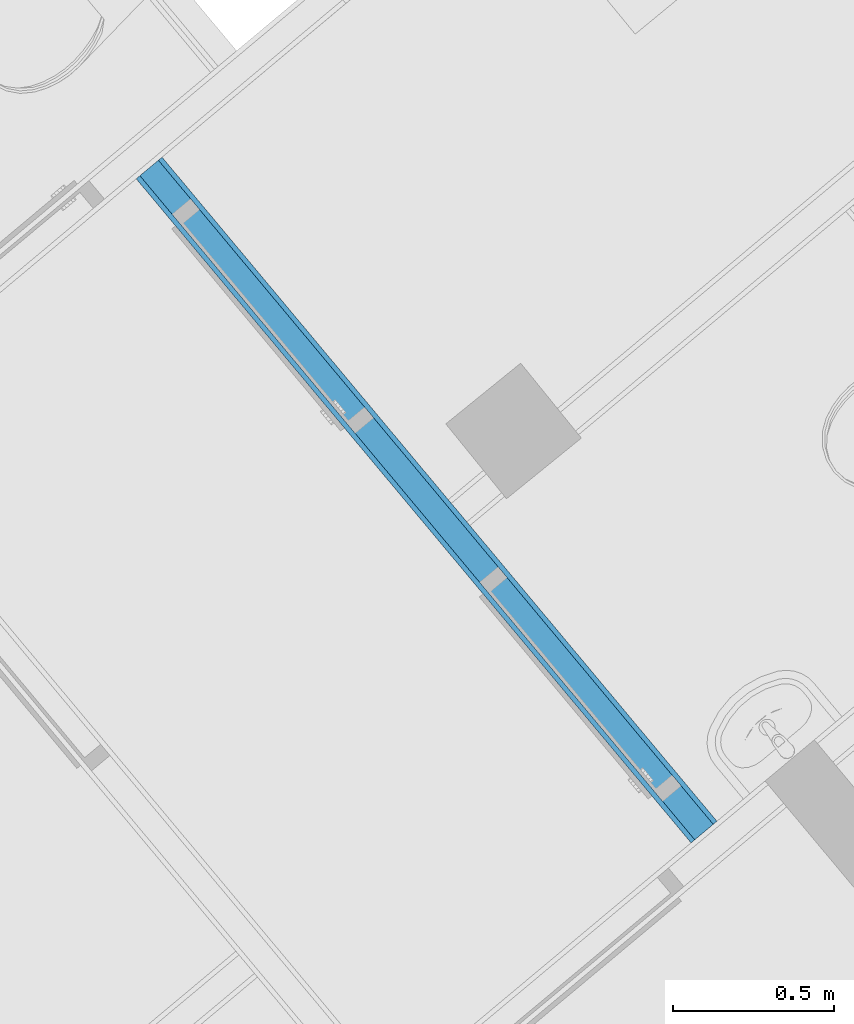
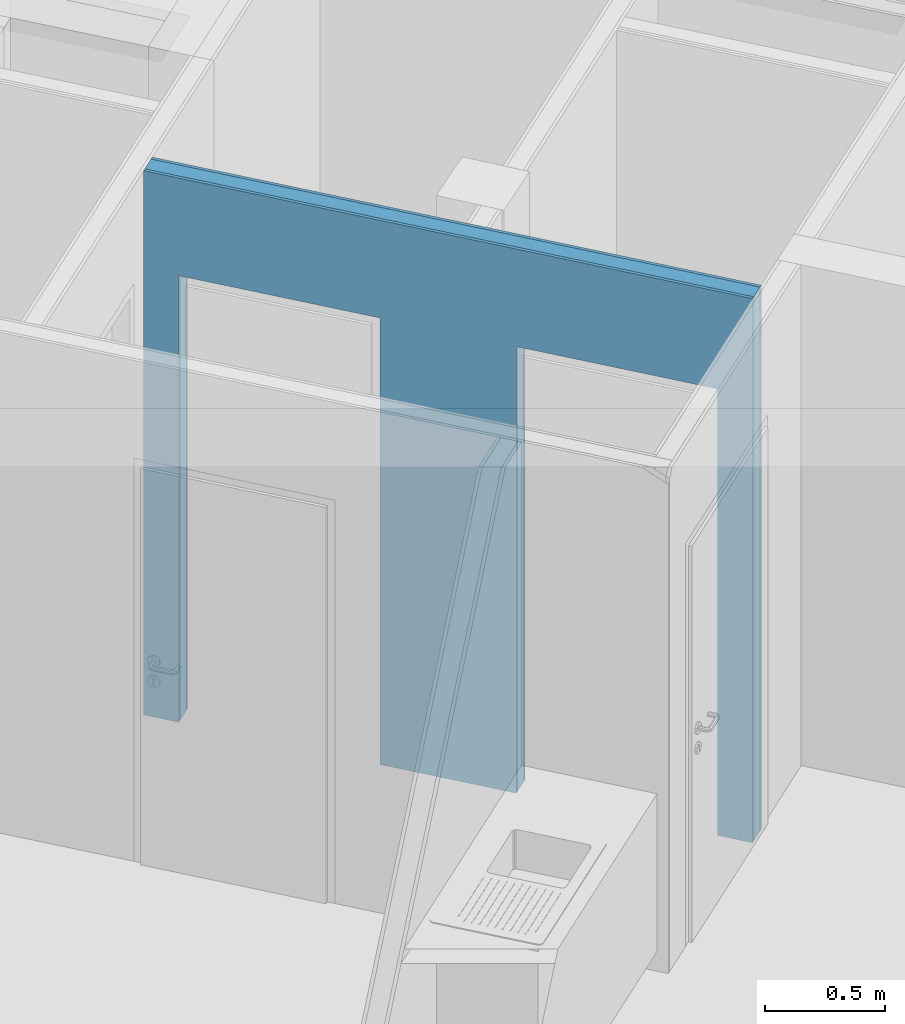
# One storey, part 13 of 75: 3 building element parts, 2 openings, 1 element without a shape of its own.
"""IFC4 building model written with IfcOpenShell, lengths in metres."""

import ifcopenshell
import ifcopenshell.guid

model = None  # the IFC model being written
_history = None  # IfcOwnerHistory: only IFC2X3 demands one
_inside = {}  # id of a spatial element -> (the spatial element, [elements in it])
_under = {}  # id of a project, library or spatial element -> (it, [spatial elements below it])
_declared = {}  # id of a project -> (the project, [libraries it declares])
_typed = {}  # id of a type object -> (the type object, [elements of that type])
_made_of = {}  # id of a material, layer set ... -> (it, [elements and type objects made of it])


def new_model(schema):
    """Start an empty IFC model of exactly this schema.

    Asked for "IFC4X3", IfcOpenShell would pick the latest addendum, in which some entities
    have other attributes; the version numbers below select the first issue.
    IFC2X3 requires an IfcOwnerHistory on every rooted entity: one is made here for all.
    """
    global model, _history
    if schema == "IFC4X3":
        model = ifcopenshell.file(schema_version=(4, 3, 0, 0))
    else:
        model = ifcopenshell.file(schema=schema)
    _inside.clear()
    _under.clear()
    _declared.clear()
    _typed.clear()
    _made_of.clear()
    _history = None
    if model.schema == "IFC2X3":
        org = make("IfcOrganization", Name="unknown")
        user = make(
            "IfcPersonAndOrganization",
            ThePerson=make("IfcPerson", FamilyName="unknown"),
            TheOrganization=org,
        )
        app = make(
            "IfcApplication",
            ApplicationDeveloper=org,
            Version="unknown",
            ApplicationFullName="unknown",
            ApplicationIdentifier="unknown",
        )
        _history = make(
            "IfcOwnerHistory",
            OwningUser=user,
            OwningApplication=app,
            ChangeAction="ADDED",
            CreationDate=0,
        )
    return model


def make(cls, **values):
    """One entity of the class cls with the attributes given. An attribute that is None is left unset."""
    return model.create_entity(
        cls, **{name: value for name, value in values.items() if value is not None}
    )


def entity(cls, *values):
    """Any entity or typed value of the class cls, its attributes in the order of the schema. None: left unset."""
    e = model.create_entity(cls)
    for i, value in enumerate(values):
        if value is not None:
            e[i] = value
    return e


def rooted(cls, **values):
    """An entity with a GlobalId (a new one), such as an element, a storey or a relation."""
    return make(cls, GlobalId=ifcopenshell.guid.new(), OwnerHistory=_history, **values)


def si_unit(unit_type, name, prefix=None):
    """IfcSIUnit, for example si_unit("LENGTHUNIT", "METRE", prefix="MILLI")."""
    return make("IfcSIUnit", UnitType=unit_type, Prefix=prefix, Name=name)


def converted_unit(unit_type, name, factor, base, dimensions=None, offset=None):
    """IfcConversionBasedUnit, such as the inch: factor (a typed value) times the base unit."""
    return make(
        "IfcConversionBasedUnit"
        if offset is None
        else "IfcConversionBasedUnitWithOffset",
        ConversionOffset=offset,
        Dimensions=None
        if dimensions is None
        else entity("IfcDimensionalExponents", *dimensions),
        UnitType=unit_type,
        Name=name,
        ConversionFactor=make(
            "IfcMeasureWithUnit", ValueComponent=factor, UnitComponent=base
        ),
    )


def derived_unit(unit_type, elements):
    """IfcDerivedUnit: a product of units, each with its exponent."""
    return make(
        "IfcDerivedUnit",
        Elements=[
            make("IfcDerivedUnitElement", Unit=unit, Exponent=power)
            for unit, power in elements
        ],
        UnitType=unit_type,
    )


def assignment(units):
    """IfcUnitAssignment: the units of a project."""
    return None if units is None else make("IfcUnitAssignment", Units=units)


def point(xyz):
    """IfcCartesianPoint."""
    return None if xyz is None else make("IfcCartesianPoint", Coordinates=xyz)


def direction(xyz):
    """IfcDirection."""
    return None if xyz is None else make("IfcDirection", DirectionRatios=xyz)


def frame(location, z_axis=None, x_axis=None):
    """IfcAxis2Placement3D, a coordinate frame: its origin and axes. An axis left out is left unset."""
    return make(
        "IfcAxis2Placement3D",
        Location=point(location),
        Axis=direction(z_axis),
        RefDirection=direction(x_axis),
    )


def origin_with_axes():
    """The frame at (0, 0, 0) with the z axis (0, 0, 1) and the x axis (1, 0, 0) written out."""
    return frame((0.0, 0.0, 0.0), z_axis=(0.0, 0.0, 1.0), x_axis=(1.0, 0.0, 0.0))


def place(relative_to, where):
    """IfcLocalPlacement: puts the frame where relative to a parent placement (None: the world)."""
    return make(
        "IfcLocalPlacement", PlacementRelTo=relative_to, RelativePlacement=where
    )


def context(
    kind, dimensions, precision=None, world=None, true_north=None, identifier=None
):
    """IfcGeometricRepresentationContext, for example the 3D "Model" context."""
    return make(
        "IfcGeometricRepresentationContext",
        ContextIdentifier=identifier,
        ContextType=kind,
        CoordinateSpaceDimension=dimensions,
        Precision=precision,
        WorldCoordinateSystem=world,
        TrueNorth=true_north,
    )


def subcontext(parent, identifier, kind, view, scale=None):
    """IfcGeometricRepresentationSubContext, for example "Body" below "Model"."""
    return make(
        "IfcGeometricRepresentationSubContext",
        ContextIdentifier=identifier,
        ContextType=kind,
        ParentContext=parent,
        TargetScale=scale,
        TargetView=view,
    )


def project(units=None, contexts=None):
    """IfcProject with its units and contexts."""
    return rooted(
        "IfcProject",
        Name="project",
        RepresentationContexts=contexts,
        UnitsInContext=assignment(units),
    )


def spatial(cls, under=None, at=None, **own):
    """A site, building, storey or space (cls), placed at a placement, below another one or the project."""
    s = rooted(cls, ObjectPlacement=at, **own)
    if under is not None:
        _under.setdefault(under.id(), (under, []))[1].append(s)
    return s


def point_list(points):
    """IfcCartesianPointList2D or 3D."""
    cls = (
        "IfcCartesianPointList2D" if len(points[0]) == 2 else "IfcCartesianPointList3D"
    )
    return make(cls, CoordList=points)


def polygons(points, faces, closed=None, point_numbers=None):
    """IfcPolygonalFaceSet: a face is its outer loop, then its inner loops; points numbered from 1."""
    made = []
    for loops in faces:
        if len(loops) == 1:
            made.append(make("IfcIndexedPolygonalFace", CoordIndex=loops[0]))
        else:
            made.append(
                make(
                    "IfcIndexedPolygonalFaceWithVoids",
                    CoordIndex=loops[0],
                    InnerCoordIndices=loops[1:],
                )
            )
    return make(
        "IfcPolygonalFaceSet",
        Coordinates=point_list(points),
        Closed=closed,
        Faces=made,
        PnIndex=point_numbers,
    )


def shape(context_of_items, identifier, shape_type, items):
    """IfcShapeRepresentation: the items that make up one representation, for example the "Body"."""
    return make(
        "IfcShapeRepresentation",
        ContextOfItems=context_of_items,
        RepresentationIdentifier=identifier,
        RepresentationType=shape_type,
        Items=items,
    )


def material(Name=None, Category=None):
    """IfcMaterial."""
    return make("IfcMaterial", Name=Name, Category=Category)


def made_of(thing, what):
    """Note that an element or type object is made of a material, layer set ...; save() writes the relation."""
    if what is not None:
        _made_of.setdefault(what.id(), (what, []))[1].append(thing)
    return thing


def type_object(cls, material=None, **own):
    """A type object (cls), such as IfcWallType, which elements share."""
    return made_of(rooted(cls, **own), material)


def element(
    cls,
    number,
    at=None,
    inside=None,
    cuts=None,
    type_object=None,
    material=None,
    context=None,
    identifier="Body",
    shape_type=None,
    held_by="IfcProductDefinitionShape",
    body=None,
    shapes=None,
    **own,
):
    """One element of the class cls, such as IfcWall. Its Tag is "e" and its number.

    at: its placement. inside: the storey or other place that contains it. cuts: it is an
    opening in that element (IfcRelVoidsElement). A single representation is given by context,
    identifier, shape_type and body (its items); several are given by shapes. held_by: the class
    of the entity that holds the representations. save() writes the other relations.
    """
    e = rooted(cls, Tag="e%d" % number, ObjectPlacement=at, **own)
    if body is not None:
        shapes = [shape(context, identifier, shape_type, body)]
    if shapes is not None:
        e.Representation = make(held_by, Representations=shapes)
    if inside is not None:
        _inside.setdefault(inside.id(), (inside, []))[1].append(e)
    if cuts is not None:
        rooted(
            "IfcRelVoidsElement", RelatingBuildingElement=cuts, RelatedOpeningElement=e
        )
    if type_object is not None:
        _typed.setdefault(type_object.id(), (type_object, []))[1].append(e)
    return made_of(e, material)


def aggregate(whole, parts):
    """IfcRelAggregates: a whole, such as a stair, and the parts it consists of."""
    return rooted("IfcRelAggregates", RelatingObject=whole, RelatedObjects=parts)


def save(model, path):
    """Write the relations noted so far, then the file.

    IfcRelAggregates (storeys below a building ...), IfcRelContainedInSpatialStructure (elements
    in a storey), IfcRelDefinesByType, IfcRelAssociatesMaterial and IfcRelDeclares: one each for
    every whole, place, type object, material and project.
    """
    for whole, parts in _under.values():
        aggregate(whole, parts)
    for where, things in _inside.values():
        rooted(
            "IfcRelContainedInSpatialStructure",
            RelatedElements=things,
            RelatingStructure=where,
        )
    for kind, things in _typed.values():
        rooted("IfcRelDefinesByType", RelatedObjects=things, RelatingType=kind)
    for what, things in _made_of.values():
        rooted("IfcRelAssociatesMaterial", RelatedObjects=things, RelatingMaterial=what)
    for by, libraries in _declared.values():
        rooted("IfcRelDeclares", RelatingContext=by, RelatedDefinitions=libraries)
    model.write(path)


model = new_model("IFC4")

# Units and contexts
model_context = context("Model", 3, precision=1e-05, world=origin_with_axes(), true_north=direction((0.0, 1.0)))
body_context = subcontext(model_context, "Body", "Model", "MODEL_VIEW")
ifc_project = project(units=[si_unit("LENGTHUNIT", "METRE"), si_unit("AREAUNIT", "SQUARE_METRE"), si_unit("VOLUMEUNIT", "CUBIC_METRE"), converted_unit("PLANEANGLEUNIT", "DEGREE", entity("IfcPlaneAngleMeasure", 0.0174532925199), si_unit("PLANEANGLEUNIT", "RADIAN"), dimensions=[0, 0, 0, 0, 0, 0, 0]), converted_unit("TIMEUNIT", "Year", entity("IfcTimeMeasure", 31556926.0), si_unit("TIMEUNIT", "SECOND"), dimensions=[0, 0, 1, 0, 0, 0, 0]), si_unit("MASSUNIT", "GRAM", prefix="KILO"), si_unit("THERMODYNAMICTEMPERATUREUNIT", "DEGREE_CELSIUS"), si_unit("LUMINOUSINTENSITYUNIT", "LUMEN"), si_unit("ENERGYUNIT", "JOULE", prefix="MEGA"), derived_unit("THERMALCONDUCTANCEUNIT", [(si_unit("POWERUNIT", "WATT"), 1), (si_unit("LENGTHUNIT", "METRE"), -1), (si_unit("THERMODYNAMICTEMPERATUREUNIT", "KELVIN"), -1)]), derived_unit("SPECIFICHEATCAPACITYUNIT", [(si_unit("ENERGYUNIT", "JOULE"), 1), (si_unit("MASSUNIT", "GRAM", prefix="KILO"), -1), (si_unit("THERMODYNAMICTEMPERATUREUNIT", "KELVIN"), -1)]), derived_unit("MASSDENSITYUNIT", [(si_unit("MASSUNIT", "GRAM", prefix="KILO"), 1), (si_unit("VOLUMEUNIT", "CUBIC_METRE"), -1)])], contexts=[model_context])

# Site, building, storey
site_placement = place(None, frame((-0.00153261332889, -0.00661245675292, 0.0), z_axis=(0.0, 0.0, 1.0), x_axis=(1.0, 0.0, 0.0)))
site = spatial("IfcSite", under=ifc_project, at=site_placement, Name="Gelände", CompositionType="ELEMENT")
building_placement = place(site_placement, origin_with_axes())
building = spatial("IfcBuilding", under=site, at=building_placement, Name="Gebäude", CompositionType="ELEMENT")
storey_placement = place(building_placement, frame((0.0, 0.0, -0.22), z_axis=(0.0, 0.0, 1.0), x_axis=(1.0, 0.0, 0.0)))
storey = spatial("IfcBuildingStorey", under=building, at=storey_placement, Name="EG", CompositionType="ELEMENT", Elevation=-0.22)

# Wall, openings, building element parts
wall_type = type_object("IfcWallType", Name="IW LB 01 Leichtbautrennwand einfach 10,5 cm 105", PredefinedType="NOTDEFINED")
wall_placement = place(storey_placement, frame((-1.00185448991, 17.6693449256, 0.0), z_axis=(0.0, 0.0, 1.0), x_axis=(-0.641209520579, 0.767365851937, 0.0)))
wall = element("IfcWall", 1, at=wall_placement, inside=storey, type_object=wall_type, Name="Wand-012", PredefinedType="NOTDEFINED")
opening_1_placement = place(wall_placement, frame((0.600343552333, 0.0, 0.22), z_axis=(0.0, 0.0, 1.0), x_axis=(1.0, 0.0, 0.0)))
element("IfcOpeningElement", 2, at=opening_1_placement, cuts=wall, Name="Tür-016", context=body_context, identifier="Reference", shape_type="Tessellation", body=[
    polygons([(-0.445, -1.32697699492, 2.045), (-0.445, -1.32697699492, -0.22), (0.445, -1.32697699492, -0.22), (0.445, -1.32697699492, 2.045), (-0.445, 1.43197699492, 2.045), (-0.445, 1.43197699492, -0.22), (0.445, 1.43197699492, -0.22), (0.445, 1.43197699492, 2.045)], [[[1, 2, 3, 4]], [[5, 6, 2, 1]], [[6, 7, 3, 2]], [[7, 8, 4, 3]], [[8, 5, 1, 4]], [[7, 6, 5, 8]]], closed=True),
])
opening_2_placement = place(wall_placement, frame((2.09376015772, 0.0, 0.22), z_axis=(0.0, 0.0, 1.0), x_axis=(1.0, 0.0, 0.0)))
element("IfcOpeningElement", 3, at=opening_2_placement, cuts=wall, Name="Tür-016", context=body_context, identifier="Reference", shape_type="Tessellation", body=[
    polygons([(-0.445, -1.32697699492, 2.045), (-0.445, -1.32697699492, -0.22), (0.445, -1.32697699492, -0.22), (0.445, -1.32697699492, 2.045), (-0.445, 1.43197699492, 2.045), (-0.445, 1.43197699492, -0.22), (0.445, 1.43197699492, -0.22), (0.445, 1.43197699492, 2.045)], [[[1, 2, 3, 4]], [[5, 6, 2, 1]], [[6, 7, 3, 2]], [[7, 8, 4, 3]], [[8, 5, 1, 4]], [[7, 6, 5, 8]]], closed=True),
])
ifc_material_1 = material(Name="Gipskarton")
building_element_part_1_placement = place(wall_placement, origin_with_axes())
building_element_part_1 = element("IfcBuildingElementPart", 4, at=building_element_part_1_placement, material=ifc_material_1, Name="Gipskarton", PredefinedType="NOTDEFINED", context=body_context, shape_type="Tessellation", body=[
    polygons([(2.53876015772, 0.09, 2.265), (2.53876015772, 0.09, 0.22), (2.53876015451, 0.09, 0.0), (2.69484355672, 0.09, 0.0), (2.69484355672, 0.09, 2.76), (0.0, 0.09, 2.76), (0.0, 0.09, 0.0), (0.155343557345, 0.09, 0.0), (0.155343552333, 0.09, 0.22), (0.155343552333, 0.09, 2.265), (1.04534355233, 0.09, 2.265), (1.04534355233, 0.09, 0.22), (1.04534353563, 0.09, 0.0), (1.64876015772, 0.09, 0.0), (1.64876015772, 0.09, 0.22), (1.64876015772, 0.09, 2.265), (2.53876015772, 0.105, 2.265), (2.53876015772, 0.105, 0.22), (2.53876015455, 0.105, 0.0), (2.69484355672, 0.105, 0.0), (2.69484355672, 0.105, 2.76), (0.0, 0.105, 2.76), (0.0, 0.105, 0.0), (0.155343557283, 0.105, 0.0), (0.155343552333, 0.105, 0.22), (0.155343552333, 0.105, 2.265), (1.04534355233, 0.105, 2.265), (1.04534355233, 0.105, 0.22), (1.04534353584, 0.105, 0.0), (1.64876015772, 0.105, 0.0), (1.64876015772, 0.105, 0.22), (1.64876015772, 0.105, 2.265)], [[[1, 2, 3, 4, 5, 6, 7, 8, 9, 10, 11, 12, 13, 14, 15, 16]], [[2, 1, 17, 18]], [[2, 18, 19, 3]], [[20, 4, 3, 19]], [[4, 20, 21, 5]], [[5, 21, 22, 6]], [[23, 7, 6, 22]], [[7, 23, 24, 8]], [[9, 8, 24, 25]], [[9, 25, 26, 10]], [[10, 26, 27, 11]], [[11, 27, 28, 12]], [[28, 29, 13, 12]], [[13, 29, 30, 14]], [[31, 15, 14, 30]], [[16, 15, 31, 32]], [[1, 16, 32, 17]], [[32, 31, 30, 29, 28, 27, 26, 25, 24, 23, 22, 21, 20, 19, 18, 17]]], closed=True),
])
ifc_material_2 = material(Name="Mineralwolle weich")
building_element_part_2_placement = place(wall_placement, origin_with_axes())
building_element_part_2 = element("IfcBuildingElementPart", 5, at=building_element_part_2_placement, material=ifc_material_2, Name="Mineralwolle weich", PredefinedType="NOTDEFINED", context=body_context, shape_type="Tessellation", body=[
    polygons([(2.53876015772, 0.015, 2.265), (2.53876015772, 0.015, 0.22), (2.53876015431, 0.015, 0.0), (2.69484355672, 0.015, 0.0), (2.69484355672, 0.015, 2.76), (0.0, 0.015, 2.76), (0.0, 0.015, 0.0), (0.155343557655, 0.015, 0.0), (0.155343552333, 0.015, 0.22), (0.155343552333, 0.015, 2.265), (1.04534355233, 0.015, 2.265), (1.04534355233, 0.015, 0.22), (1.0453435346, 0.015, 0.0), (1.64876015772, 0.015, 0.0), (1.64876015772, 0.015, 0.22), (1.64876015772, 0.015, 2.265), (2.53876015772, 0.09, 2.265), (2.53876015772, 0.09, 0.22), (2.53876015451, 0.09, 0.0), (2.69484355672, 0.09, 0.0), (2.69484355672, 0.09, 2.76), (0.0, 0.09, 2.76), (0.0, 0.09, 0.0), (0.155343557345, 0.09, 0.0), (0.155343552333, 0.09, 0.22), (0.155343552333, 0.09, 2.265), (1.04534355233, 0.09, 2.265), (1.04534355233, 0.09, 0.22), (1.04534353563, 0.09, 0.0), (1.64876015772, 0.09, 0.0), (1.64876015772, 0.09, 0.22), (1.64876015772, 0.09, 2.265)], [[[1, 2, 3, 4, 5, 6, 7, 8, 9, 10, 11, 12, 13, 14, 15, 16]], [[2, 1, 17, 18]], [[2, 18, 19, 3]], [[20, 4, 3, 19]], [[4, 20, 21, 5]], [[5, 21, 22, 6]], [[23, 7, 6, 22]], [[7, 23, 24, 8]], [[9, 8, 24, 25]], [[9, 25, 26, 10]], [[10, 26, 27, 11]], [[11, 27, 28, 12]], [[28, 29, 13, 12]], [[13, 29, 30, 14]], [[31, 15, 14, 30]], [[16, 15, 31, 32]], [[1, 16, 32, 17]], [[32, 31, 30, 29, 28, 27, 26, 25, 24, 23, 22, 21, 20, 19, 18, 17]]], closed=True),
])
building_element_part_3_placement = place(wall_placement, origin_with_axes())
building_element_part_3 = element("IfcBuildingElementPart", 6, at=building_element_part_3_placement, material=ifc_material_1, Name="Gipskarton", PredefinedType="NOTDEFINED", context=body_context, shape_type="Tessellation", body=[
    polygons([(2.53876015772, 1.70691709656e-08, 2.265), (2.53876015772, 1.87500468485e-08, 0.22), (2.53876015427, 1.87500468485e-08, 0.0), (2.69484355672, 0.0, 0.0), (2.69484355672, 0.0, 2.76), (0.0, 0.0, 2.76), (0.0, 0.0, 0.0), (0.155343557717, 1.84442470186e-08, 0.0), (0.155343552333, 1.84442470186e-08, 0.22), (0.155343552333, 1.70691709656e-08, 2.265), (1.04534355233, 1.70691727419e-08, 2.265), (1.04534355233, -1.2392145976e-08, 0.22), (1.04534353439, -1.23921424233e-08, 0.0), (1.64876015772, 1.70691727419e-08, 0.0), (1.64876015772, 1.70691727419e-08, 0.22), (1.64876015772, 1.70691709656e-08, 2.265), (2.53876015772, 0.015, 2.265), (2.53876015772, 0.015, 0.22), (2.53876015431, 0.015, 0.0), (2.69484355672, 0.015, 0.0), (2.69484355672, 0.015, 2.76), (0.0, 0.015, 2.76), (0.0, 0.015, 0.0), (0.155343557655, 0.015, 0.0), (0.155343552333, 0.015, 0.22), (0.155343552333, 0.015, 2.265), (1.04534355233, 0.015, 2.265), (1.04534355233, 0.015, 0.22), (1.0453435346, 0.015, 0.0), (1.64876015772, 0.015, 0.0), (1.64876015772, 0.015, 0.22), (1.64876015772, 0.015, 2.265)], [[[1, 2, 3, 4, 5, 6, 7, 8, 9, 10, 11, 12, 13, 14, 15, 16]], [[2, 1, 17, 18]], [[2, 18, 19, 3]], [[20, 4, 3, 19]], [[4, 20, 21, 5]], [[5, 21, 22, 6]], [[23, 7, 6, 22]], [[7, 23, 24, 8]], [[9, 8, 24, 25]], [[9, 25, 26, 10]], [[10, 26, 27, 11]], [[11, 27, 28, 12]], [[28, 29, 13, 12]], [[13, 29, 30, 14]], [[31, 15, 14, 30]], [[16, 15, 31, 32]], [[1, 16, 32, 17]], [[32, 31, 30, 29, 28, 27, 26, 25, 24, 23, 22, 21, 20, 19, 18, 17]]], closed=True),
])
aggregate(wall, [building_element_part_1, building_element_part_2, building_element_part_3])

save(model, "model.ifc")
